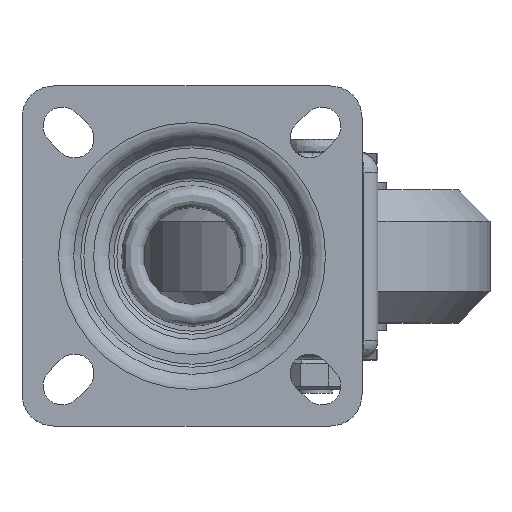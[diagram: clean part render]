
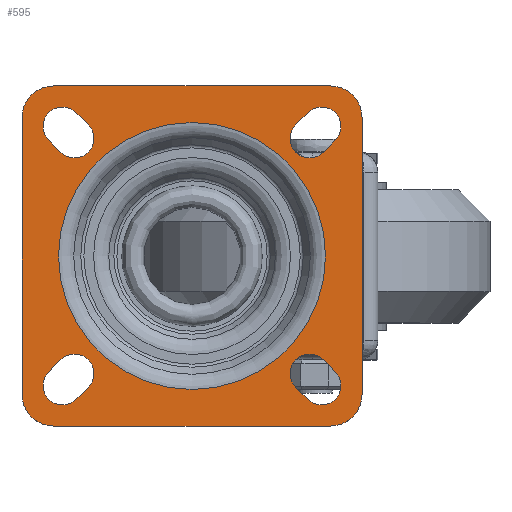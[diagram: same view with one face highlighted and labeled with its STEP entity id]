
A CAD part, top view. The second image highlights one B-rep face of the part: STEP entity #595.
In plain terms, the highlighted planar face has unit normal (0, 0, 1).
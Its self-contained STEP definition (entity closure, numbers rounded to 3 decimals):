
#595=ADVANCED_FACE('',(#2237,#2238,#2239,#2240,#2241,#2242),#919,.F.);
#919=PLANE('',#6632);
#1263=CIRCLE('',#6619,5.5);
#1264=CIRCLE('',#6620,5.5);
#1265=CIRCLE('',#6621,5.5);
#1266=CIRCLE('',#6622,5.5);
#1267=CIRCLE('',#6623,38.077);
#1268=CIRCLE('',#6624,9.);
#1269=CIRCLE('',#6625,9.);
#1270=CIRCLE('',#6626,9.);
#1271=CIRCLE('',#6627,9.);
#1272=CIRCLE('',#6628,5.5);
#1273=CIRCLE('',#6629,5.5);
#1274=CIRCLE('',#6630,5.5);
#1275=CIRCLE('',#6631,5.5);
#1458=LINE('',#10238,#1866);
#1459=LINE('',#10243,#1867);
#1460=LINE('',#10249,#1868);
#1461=LINE('',#10253,#1869);
#1462=LINE('',#10256,#1870);
#1463=LINE('',#10261,#1871);
#1464=LINE('',#10265,#1872);
#1465=LINE('',#10269,#1873);
#1466=LINE('',#10275,#1874);
#1467=LINE('',#10279,#1875);
#1468=LINE('',#10280,#1876);
#1469=LINE('',#10285,#1877);
#1866=VECTOR('',#7517,1.);
#1867=VECTOR('',#7520,1.);
#1868=VECTOR('',#7525,1.);
#1869=VECTOR('',#7528,1.);
#1870=VECTOR('',#7531,1.);
#1871=VECTOR('',#7534,1.);
#1872=VECTOR('',#7537,1.);
#1873=VECTOR('',#7540,1.);
#1874=VECTOR('',#7545,1.);
#1875=VECTOR('',#7548,1.);
#1876=VECTOR('',#7549,1.);
#1877=VECTOR('',#7552,1.);
#2237=FACE_BOUND('',#2450,.T.);
#2238=FACE_BOUND('',#2451,.T.);
#2239=FACE_BOUND('',#2452,.T.);
#2240=FACE_BOUND('',#2453,.T.);
#2241=FACE_BOUND('',#2454,.T.);
#2242=FACE_BOUND('',#2455,.T.);
#2450=EDGE_LOOP('',(#3332,#3333,#3334,#3335));
#2451=EDGE_LOOP('',(#3336,#3337,#3338,#3339));
#2452=EDGE_LOOP('',(#3340));
#2453=EDGE_LOOP('',(#3341,#3342,#3343,#3344,#3345,#3346,#3347,#3348));
#2454=EDGE_LOOP('',(#3349,#3350,#3351,#3352));
#2455=EDGE_LOOP('',(#3353,#3354,#3355,#3356));
#3332=ORIENTED_EDGE('',*,*,#5593,.F.);
#3333=ORIENTED_EDGE('',*,*,#5594,.F.);
#3334=ORIENTED_EDGE('',*,*,#5595,.F.);
#3335=ORIENTED_EDGE('',*,*,#5596,.F.);
#3336=ORIENTED_EDGE('',*,*,#5597,.T.);
#3337=ORIENTED_EDGE('',*,*,#5598,.T.);
#3338=ORIENTED_EDGE('',*,*,#5599,.T.);
#3339=ORIENTED_EDGE('',*,*,#5600,.T.);
#3340=ORIENTED_EDGE('',*,*,#5601,.F.);
#3341=ORIENTED_EDGE('',*,*,#5602,.T.);
#3342=ORIENTED_EDGE('',*,*,#5603,.T.);
#3343=ORIENTED_EDGE('',*,*,#5604,.T.);
#3344=ORIENTED_EDGE('',*,*,#5605,.T.);
#3345=ORIENTED_EDGE('',*,*,#5606,.F.);
#3346=ORIENTED_EDGE('',*,*,#5607,.T.);
#3347=ORIENTED_EDGE('',*,*,#5608,.T.);
#3348=ORIENTED_EDGE('',*,*,#5609,.T.);
#3349=ORIENTED_EDGE('',*,*,#5610,.T.);
#3350=ORIENTED_EDGE('',*,*,#5611,.T.);
#3351=ORIENTED_EDGE('',*,*,#5612,.T.);
#3352=ORIENTED_EDGE('',*,*,#5613,.T.);
#3353=ORIENTED_EDGE('',*,*,#5614,.F.);
#3354=ORIENTED_EDGE('',*,*,#5615,.F.);
#3355=ORIENTED_EDGE('',*,*,#5616,.F.);
#3356=ORIENTED_EDGE('',*,*,#5617,.F.);
#4921=VERTEX_POINT('',#10239);
#4922=VERTEX_POINT('',#10240);
#4923=VERTEX_POINT('',#10242);
#4924=VERTEX_POINT('',#10244);
#4925=VERTEX_POINT('',#10247);
#4926=VERTEX_POINT('',#10248);
#4927=VERTEX_POINT('',#10250);
#4928=VERTEX_POINT('',#10252);
#4929=VERTEX_POINT('',#10255);
#4930=VERTEX_POINT('',#10257);
#4931=VERTEX_POINT('',#10258);
#4932=VERTEX_POINT('',#10260);
#4933=VERTEX_POINT('',#10262);
#4934=VERTEX_POINT('',#10264);
#4935=VERTEX_POINT('',#10266);
#4936=VERTEX_POINT('',#10268);
#4937=VERTEX_POINT('',#10270);
#4938=VERTEX_POINT('',#10273);
#4939=VERTEX_POINT('',#10274);
#4940=VERTEX_POINT('',#10276);
#4941=VERTEX_POINT('',#10278);
#4942=VERTEX_POINT('',#10281);
#4943=VERTEX_POINT('',#10282);
#4944=VERTEX_POINT('',#10284);
#4945=VERTEX_POINT('',#10286);
#5593=EDGE_CURVE('',#4921,#4922,#1458,.T.);
#5594=EDGE_CURVE('',#4923,#4921,#1263,.T.);
#5595=EDGE_CURVE('',#4924,#4923,#1459,.T.);
#5596=EDGE_CURVE('',#4922,#4924,#1264,.T.);
#5597=EDGE_CURVE('',#4925,#4926,#1265,.T.);
#5598=EDGE_CURVE('',#4926,#4927,#1460,.T.);
#5599=EDGE_CURVE('',#4927,#4928,#1266,.T.);
#5600=EDGE_CURVE('',#4928,#4925,#1461,.T.);
#5601=EDGE_CURVE('',#4929,#4929,#1267,.T.);
#5602=EDGE_CURVE('',#4930,#4931,#1462,.T.);
#5603=EDGE_CURVE('',#4931,#4932,#1268,.T.);
#5604=EDGE_CURVE('',#4932,#4933,#1463,.T.);
#5605=EDGE_CURVE('',#4933,#4934,#1269,.T.);
#5606=EDGE_CURVE('',#4935,#4934,#1464,.T.);
#5607=EDGE_CURVE('',#4935,#4936,#1270,.T.);
#5608=EDGE_CURVE('',#4936,#4937,#1465,.T.);
#5609=EDGE_CURVE('',#4937,#4930,#1271,.T.);
#5610=EDGE_CURVE('',#4938,#4939,#1272,.T.);
#5611=EDGE_CURVE('',#4939,#4940,#1466,.T.);
#5612=EDGE_CURVE('',#4940,#4941,#1273,.T.);
#5613=EDGE_CURVE('',#4941,#4938,#1467,.T.);
#5614=EDGE_CURVE('',#4942,#4943,#1468,.T.);
#5615=EDGE_CURVE('',#4944,#4942,#1274,.T.);
#5616=EDGE_CURVE('',#4945,#4944,#1469,.T.);
#5617=EDGE_CURVE('',#4943,#4945,#1275,.T.);
#6619=AXIS2_PLACEMENT_3D('',#10241,#7518,#7519);
#6620=AXIS2_PLACEMENT_3D('',#10245,#7521,#7522);
#6621=AXIS2_PLACEMENT_3D('',#10246,#7523,#7524);
#6622=AXIS2_PLACEMENT_3D('',#10251,#7526,#7527);
#6623=AXIS2_PLACEMENT_3D('',#10254,#7529,#7530);
#6624=AXIS2_PLACEMENT_3D('',#10259,#7532,#7533);
#6625=AXIS2_PLACEMENT_3D('',#10263,#7535,#7536);
#6626=AXIS2_PLACEMENT_3D('',#10267,#7538,#7539);
#6627=AXIS2_PLACEMENT_3D('',#10271,#7541,#7542);
#6628=AXIS2_PLACEMENT_3D('',#10272,#7543,#7544);
#6629=AXIS2_PLACEMENT_3D('',#10277,#7546,#7547);
#6630=AXIS2_PLACEMENT_3D('',#10283,#7550,#7551);
#6631=AXIS2_PLACEMENT_3D('',#10287,#7553,#7554);
#6632=AXIS2_PLACEMENT_3D('',#10288,#7555,#7556);
#7517=DIRECTION('',(-0.707,0.707,0.));
#7518=DIRECTION('',(0.,0.,1.));
#7519=DIRECTION('',(1.,0.,0.));
#7520=DIRECTION('',(0.707,-0.707,0.));
#7521=DIRECTION('',(0.,0.,1.));
#7522=DIRECTION('',(1.,0.,0.));
#7523=DIRECTION('',(0.,0.,-1.));
#7524=DIRECTION('',(1.,0.,0.));
#7525=DIRECTION('',(-0.707,-0.707,0.));
#7526=DIRECTION('',(0.,0.,-1.));
#7527=DIRECTION('',(1.,0.,0.));
#7528=DIRECTION('',(0.707,0.707,0.));
#7529=DIRECTION('',(0.,0.,1.));
#7530=DIRECTION('',(0.,1.,0.));
#7531=DIRECTION('',(0.,-1.,0.));
#7532=DIRECTION('',(0.,0.,1.));
#7533=DIRECTION('',(1.,0.,0.));
#7534=DIRECTION('',(1.,0.,0.));
#7535=DIRECTION('',(0.,0.,1.));
#7536=DIRECTION('',(1.,0.,0.));
#7537=DIRECTION('',(0.,-1.,0.));
#7538=DIRECTION('',(0.,0.,1.));
#7539=DIRECTION('',(1.,0.,0.));
#7540=DIRECTION('',(-1.,0.,0.));
#7541=DIRECTION('',(0.,0.,1.));
#7542=DIRECTION('',(1.,0.,0.));
#7543=DIRECTION('',(0.,0.,-1.));
#7544=DIRECTION('',(1.,0.,0.));
#7545=DIRECTION('',(-0.707,-0.707,0.));
#7546=DIRECTION('',(0.,0.,-1.));
#7547=DIRECTION('',(1.,0.,0.));
#7548=DIRECTION('',(0.707,0.707,0.));
#7549=DIRECTION('',(-0.707,0.707,0.));
#7550=DIRECTION('',(0.,0.,1.));
#7551=DIRECTION('',(1.,0.,0.));
#7552=DIRECTION('',(0.707,-0.707,0.));
#7553=DIRECTION('',(0.,0.,1.));
#7554=DIRECTION('',(1.,0.,0.));
#7555=DIRECTION('',(0.,0.,-1.));
#7556=DIRECTION('',(0.,1.,0.));
#10238=CARTESIAN_POINT('',(-20.361,28.139,0.));
#10239=CARTESIAN_POINT('',(-29.611,37.389,0.));
#10240=CARTESIAN_POINT('',(-33.111,40.889,0.));
#10241=CARTESIAN_POINT('',(-33.5,33.5,0.));
#10242=CARTESIAN_POINT('',(-37.389,29.611,0.));
#10243=CARTESIAN_POINT('',(-28.139,20.361,0.));
#10244=CARTESIAN_POINT('',(-40.889,33.111,0.));
#10245=CARTESIAN_POINT('',(-37.,37.,0.));
#10246=CARTESIAN_POINT('',(-33.5,-33.5,0.));
#10247=CARTESIAN_POINT('',(-37.389,-29.611,0.));
#10248=CARTESIAN_POINT('',(-29.611,-37.389,0.));
#10249=CARTESIAN_POINT('',(-20.361,-28.139,0.));
#10250=CARTESIAN_POINT('',(-33.111,-40.889,0.));
#10251=CARTESIAN_POINT('',(-37.,-37.,0.));
#10252=CARTESIAN_POINT('',(-40.889,-33.111,0.));
#10253=CARTESIAN_POINT('',(-28.139,-20.361,0.));
#10254=CARTESIAN_POINT('',(0.,0.,0.));
#10255=CARTESIAN_POINT('',(0.,38.077,0.));
#10256=CARTESIAN_POINT('',(-48.5,48.5,0.));
#10257=CARTESIAN_POINT('',(-48.5,39.5,0.));
#10258=CARTESIAN_POINT('',(-48.5,-39.5,0.));
#10259=CARTESIAN_POINT('',(-39.5,-39.5,0.));
#10260=CARTESIAN_POINT('',(-39.5,-48.5,0.));
#10261=CARTESIAN_POINT('',(0.,-48.5,0.));
#10262=CARTESIAN_POINT('',(39.5,-48.5,0.));
#10263=CARTESIAN_POINT('',(39.5,-39.5,0.));
#10264=CARTESIAN_POINT('',(48.5,-39.5,0.));
#10265=CARTESIAN_POINT('',(48.5,48.5,0.));
#10266=CARTESIAN_POINT('',(48.5,39.5,0.));
#10267=CARTESIAN_POINT('',(39.5,39.5,0.));
#10268=CARTESIAN_POINT('',(39.5,48.5,0.));
#10269=CARTESIAN_POINT('',(0.,48.5,0.));
#10270=CARTESIAN_POINT('',(-39.5,48.5,0.));
#10271=CARTESIAN_POINT('',(-39.5,39.5,0.));
#10272=CARTESIAN_POINT('',(37.,37.,0.));
#10273=CARTESIAN_POINT('',(33.111,40.889,0.));
#10274=CARTESIAN_POINT('',(40.889,33.111,0.));
#10275=CARTESIAN_POINT('',(-20.361,-28.139,0.));
#10276=CARTESIAN_POINT('',(37.389,29.611,0.));
#10277=CARTESIAN_POINT('',(33.5,33.5,0.));
#10278=CARTESIAN_POINT('',(29.611,37.389,0.));
#10279=CARTESIAN_POINT('',(-28.139,-20.361,0.));
#10280=CARTESIAN_POINT('',(-20.361,28.139,0.));
#10281=CARTESIAN_POINT('',(40.889,-33.111,0.));
#10282=CARTESIAN_POINT('',(37.389,-29.611,0.));
#10283=CARTESIAN_POINT('',(37.,-37.,0.));
#10284=CARTESIAN_POINT('',(33.111,-40.889,0.));
#10285=CARTESIAN_POINT('',(-28.139,20.361,0.));
#10286=CARTESIAN_POINT('',(29.611,-37.389,0.));
#10287=CARTESIAN_POINT('',(33.5,-33.5,0.));
#10288=CARTESIAN_POINT('',(-48.5,0.,0.));
